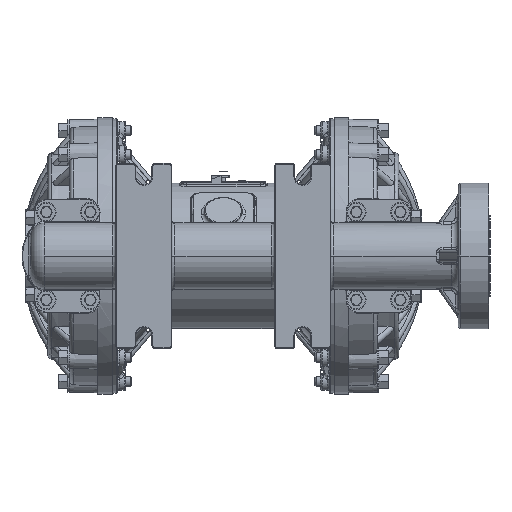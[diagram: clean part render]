
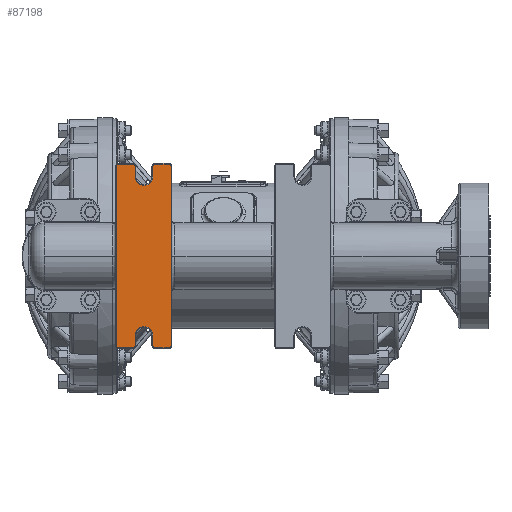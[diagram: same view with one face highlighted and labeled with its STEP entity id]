
A CAD part, front view. The second image highlights one B-rep face of the part: STEP entity #87198.
In plain terms, the highlighted planar face has unit normal (0, -1, 0).
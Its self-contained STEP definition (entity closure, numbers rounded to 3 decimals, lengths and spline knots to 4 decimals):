
#80244=CARTESIAN_POINT('',(-2.585,-10.2505,3.39));
#80245=DIRECTION('',(0.,1.,0.));
#80246=DIRECTION('',(-1.,0.,0.));
#80247=AXIS2_PLACEMENT_3D('',#80244,#80245,#80246);
#80249=CARTESIAN_POINT('',(-2.05,-10.2505,3.39));
#80250=DIRECTION('',(0.,1.,0.));
#80251=DIRECTION('',(0.,0.,1.));
#80252=AXIS2_PLACEMENT_3D('',#80249,#80250,#80251);
#80254=CARTESIAN_POINT('',(-2.05,-10.2505,-3.39));
#80255=DIRECTION('',(0.,1.,0.));
#80256=DIRECTION('',(1.,0.,0.));
#80257=AXIS2_PLACEMENT_3D('',#80254,#80255,#80256);
#80259=CARTESIAN_POINT('',(-2.585,-10.2505,-3.39));
#80260=DIRECTION('',(0.,1.,0.));
#80261=DIRECTION('',(0.,0.,-1.));
#80262=AXIS2_PLACEMENT_3D('',#80259,#80260,#80261);
#80264=CARTESIAN_POINT('',(-3.415,-10.2505,-3.39));
#80265=DIRECTION('',(0.,1.,0.));
#80266=DIRECTION('',(1.,0.,0.));
#80267=AXIS2_PLACEMENT_3D('',#80264,#80265,#80266);
#80269=CARTESIAN_POINT('',(-3.95,-10.2505,-3.39));
#80270=DIRECTION('',(0.,1.,0.));
#80271=DIRECTION('',(0.,0.,-1.));
#80272=AXIS2_PLACEMENT_3D('',#80269,#80270,#80271);
#80274=CARTESIAN_POINT('',(-3.95,-10.2505,3.39));
#80275=DIRECTION('',(0.,1.,0.));
#80276=DIRECTION('',(-1.,0.,0.));
#80277=AXIS2_PLACEMENT_3D('',#80274,#80275,#80276);
#80279=CARTESIAN_POINT('',(-3.415,-10.2505,3.39));
#80280=DIRECTION('',(0.,1.,0.));
#80281=DIRECTION('',(0.,0.,1.));
#80282=AXIS2_PLACEMENT_3D('',#80279,#80280,#80281);
#82665=DIRECTION('',(0.,0.,-1.));
#82666=VECTOR('',#82665,6.78);
#82667=CARTESIAN_POINT('',(-1.97,-10.2505,3.39));
#82668=LINE('',#82667,#82666);
#82683=DIRECTION('',(-1.,0.,0.));
#82684=VECTOR('',#82683,0.535);
#82685=CARTESIAN_POINT('',(-2.05,-10.2505,-3.47));
#82686=LINE('',#82685,#82684);
#82692=DIRECTION('',(0.,0.,1.));
#82693=VECTOR('',#82692,0.39);
#82694=CARTESIAN_POINT('',(-2.665,-10.2505,-3.39));
#82695=LINE('',#82694,#82693);
#82705=CARTESIAN_POINT('',(-3.,-10.2505,-3.));
#82706=DIRECTION('',(0.,1.,0.));
#82707=DIRECTION('',(-1.,0.,0.));
#82708=AXIS2_PLACEMENT_3D('',#82705,#82706,#82707);
#82720=DIRECTION('',(0.,0.,1.));
#82721=VECTOR('',#82720,0.39);
#82722=CARTESIAN_POINT('',(-3.335,-10.2505,-3.39));
#82723=LINE('',#82722,#82721);
#82747=DIRECTION('',(-1.,0.,0.));
#82748=VECTOR('',#82747,0.535);
#82749=CARTESIAN_POINT('',(-3.415,-10.2505,-3.47));
#82750=LINE('',#82749,#82748);
#82765=DIRECTION('',(0.,0.,-1.));
#82766=VECTOR('',#82765,6.78);
#82767=CARTESIAN_POINT('',(-4.03,-10.2505,3.39));
#82768=LINE('',#82767,#82766);
#82774=DIRECTION('',(-1.,0.,0.));
#82775=VECTOR('',#82774,0.535);
#82776=CARTESIAN_POINT('',(-3.415,-10.2505,3.47));
#82777=LINE('',#82776,#82775);
#82792=DIRECTION('',(0.,0.,-1.));
#82793=VECTOR('',#82792,0.39);
#82794=CARTESIAN_POINT('',(-3.335,-10.2505,3.39));
#82795=LINE('',#82794,#82793);
#82805=CARTESIAN_POINT('',(-3.,-10.2505,3.));
#82806=DIRECTION('',(0.,-1.,0.));
#82807=DIRECTION('',(-1.,0.,0.));
#82808=AXIS2_PLACEMENT_3D('',#82805,#82806,#82807);
#82820=DIRECTION('',(0.,0.,-1.));
#82821=VECTOR('',#82820,0.39);
#82822=CARTESIAN_POINT('',(-2.665,-10.2505,3.39));
#82823=LINE('',#82822,#82821);
#82838=DIRECTION('',(-1.,0.,0.));
#82839=VECTOR('',#82838,0.535);
#82840=CARTESIAN_POINT('',(-2.05,-10.2505,3.47));
#82841=LINE('',#82840,#82839);
#85841=CARTESIAN_POINT('',(-1.97,-10.2505,3.39));
#85842=CARTESIAN_POINT('',(-1.97,-10.2505,-3.39));
#85843=VERTEX_POINT('',#85841);
#85844=VERTEX_POINT('',#85842);
#85847=CARTESIAN_POINT('',(-2.05,-10.2505,-3.47));
#85848=VERTEX_POINT('',#85847);
#85851=CARTESIAN_POINT('',(-2.585,-10.2505,-3.47));
#85852=VERTEX_POINT('',#85851);
#85855=CARTESIAN_POINT('',(-2.665,-10.2505,-3.39));
#85856=VERTEX_POINT('',#85855);
#85857=CARTESIAN_POINT('',(-2.665,-10.2505,-3.));
#85858=VERTEX_POINT('',#85857);
#85861=CARTESIAN_POINT('',(-3.335,-10.2505,-3.));
#85862=VERTEX_POINT('',#85861);
#85865=CARTESIAN_POINT('',(-3.335,-10.2505,-3.39));
#85866=VERTEX_POINT('',#85865);
#85871=CARTESIAN_POINT('',(-3.415,-10.2505,-3.47));
#85872=VERTEX_POINT('',#85871);
#85875=CARTESIAN_POINT('',(-3.95,-10.2505,-3.47));
#85876=VERTEX_POINT('',#85875);
#85879=CARTESIAN_POINT('',(-4.03,-10.2505,-3.39));
#85880=VERTEX_POINT('',#85879);
#85883=CARTESIAN_POINT('',(-4.03,-10.2505,3.39));
#85884=VERTEX_POINT('',#85883);
#85887=CARTESIAN_POINT('',(-3.95,-10.2505,3.47));
#85888=VERTEX_POINT('',#85887);
#85889=CARTESIAN_POINT('',(-3.415,-10.2505,3.47));
#85890=VERTEX_POINT('',#85889);
#85895=CARTESIAN_POINT('',(-3.335,-10.2505,3.39));
#85896=VERTEX_POINT('',#85895);
#85897=CARTESIAN_POINT('',(-3.335,-10.2505,3.));
#85898=VERTEX_POINT('',#85897);
#85901=CARTESIAN_POINT('',(-2.665,-10.2505,3.));
#85902=VERTEX_POINT('',#85901);
#85905=CARTESIAN_POINT('',(-2.665,-10.2505,3.39));
#85906=VERTEX_POINT('',#85905);
#85911=CARTESIAN_POINT('',(-2.585,-10.2505,3.47));
#85912=VERTEX_POINT('',#85911);
#85913=CARTESIAN_POINT('',(-2.05,-10.2505,3.47));
#85914=VERTEX_POINT('',#85913);
#87151=CARTESIAN_POINT('',(-1.94,-10.2505,3.5));
#87152=DIRECTION('',(0.,1.,0.));
#87153=DIRECTION('',(0.,0.,-1.));
#87154=AXIS2_PLACEMENT_3D('',#87151,#87152,#87153);
#87155=PLANE('',#87154);
#87157=ORIENTED_EDGE('',*,*,#87156,.T.);
#87159=ORIENTED_EDGE('',*,*,#87158,.T.);
#87161=ORIENTED_EDGE('',*,*,#87160,.F.);
#87163=ORIENTED_EDGE('',*,*,#87162,.T.);
#87165=ORIENTED_EDGE('',*,*,#87164,.F.);
#87167=ORIENTED_EDGE('',*,*,#87166,.T.);
#87169=ORIENTED_EDGE('',*,*,#87168,.T.);
#87171=ORIENTED_EDGE('',*,*,#87170,.T.);
#87173=ORIENTED_EDGE('',*,*,#87172,.T.);
#87175=ORIENTED_EDGE('',*,*,#87174,.T.);
#87177=ORIENTED_EDGE('',*,*,#87176,.T.);
#87179=ORIENTED_EDGE('',*,*,#87178,.F.);
#87181=ORIENTED_EDGE('',*,*,#87180,.F.);
#87183=ORIENTED_EDGE('',*,*,#87182,.T.);
#87185=ORIENTED_EDGE('',*,*,#87184,.T.);
#87187=ORIENTED_EDGE('',*,*,#87186,.T.);
#87189=ORIENTED_EDGE('',*,*,#87188,.F.);
#87191=ORIENTED_EDGE('',*,*,#87190,.T.);
#87193=ORIENTED_EDGE('',*,*,#87192,.F.);
#87195=ORIENTED_EDGE('',*,*,#87194,.T.);
#87196=EDGE_LOOP('',(#87157,#87159,#87161,#87163,#87165,#87167,#87169,#87171,
#87173,#87175,#87177,#87179,#87181,#87183,#87185,#87187,#87189,#87191,#87193,
#87195));
#87197=FACE_OUTER_BOUND('',#87196,.F.);
#87198=ADVANCED_FACE('',(#87197),#87155,.F.);
#80248=CIRCLE('',#80247,0.08);
#80253=CIRCLE('',#80252,0.08);
#80258=CIRCLE('',#80257,0.08);
#80263=CIRCLE('',#80262,0.08);
#80268=CIRCLE('',#80267,0.08);
#80273=CIRCLE('',#80272,0.08);
#80278=CIRCLE('',#80277,0.08);
#80283=CIRCLE('',#80282,0.08);
#82709=CIRCLE('',#82708,0.335);
#82809=CIRCLE('',#82808,0.335);
#87156=EDGE_CURVE('',#85896,#85898,#82795,.T.);
#87158=EDGE_CURVE('',#85898,#85902,#82809,.T.);
#87160=EDGE_CURVE('',#85906,#85902,#82823,.T.);
#87162=EDGE_CURVE('',#85906,#85912,#80248,.T.);
#87164=EDGE_CURVE('',#85914,#85912,#82841,.T.);
#87166=EDGE_CURVE('',#85914,#85843,#80253,.T.);
#87168=EDGE_CURVE('',#85843,#85844,#82668,.T.);
#87170=EDGE_CURVE('',#85844,#85848,#80258,.T.);
#87172=EDGE_CURVE('',#85848,#85852,#82686,.T.);
#87174=EDGE_CURVE('',#85852,#85856,#80263,.T.);
#87176=EDGE_CURVE('',#85856,#85858,#82695,.T.);
#87178=EDGE_CURVE('',#85862,#85858,#82709,.T.);
#87180=EDGE_CURVE('',#85866,#85862,#82723,.T.);
#87182=EDGE_CURVE('',#85866,#85872,#80268,.T.);
#87184=EDGE_CURVE('',#85872,#85876,#82750,.T.);
#87186=EDGE_CURVE('',#85876,#85880,#80273,.T.);
#87188=EDGE_CURVE('',#85884,#85880,#82768,.T.);
#87190=EDGE_CURVE('',#85884,#85888,#80278,.T.);
#87192=EDGE_CURVE('',#85890,#85888,#82777,.T.);
#87194=EDGE_CURVE('',#85890,#85896,#80283,.T.);
